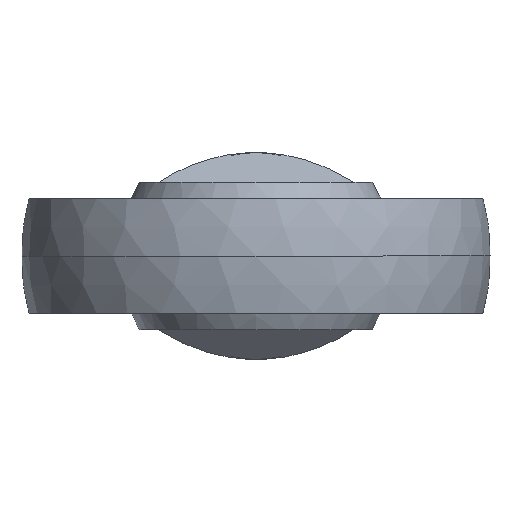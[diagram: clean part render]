
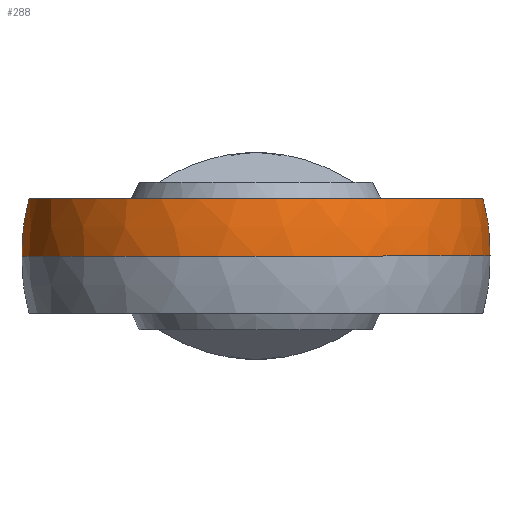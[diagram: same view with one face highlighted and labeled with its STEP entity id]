
A CAD part, left-side view. The second image highlights one B-rep face of the part: STEP entity #288.
In plain terms, the highlighted spherical face has radius 51 mm.
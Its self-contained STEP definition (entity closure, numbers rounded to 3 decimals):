
#3 = CARTESIAN_POINT ( 'NONE',  ( 0., 0., 0. ) ) ;
#46 = DIRECTION ( 'NONE',  ( 0., 0., -1. ) ) ;
#47 = DIRECTION ( 'NONE',  ( -1., 0., 0. ) ) ;
#288 = ADVANCED_FACE ( 'NONE', ( #797 ), #796, .T. ) ;
#289 = EDGE_LOOP ( 'NONE', ( #290, #318, #321, #315, #312 ) ) ;
#290 = ORIENTED_EDGE ( 'NONE', *, *, #291, .F. ) ;
#291 = EDGE_CURVE ( 'NONE', #292, #293, #546, .T. ) ;
#292 = VERTEX_POINT ( 'NONE', #851 ) ;
#293 = VERTEX_POINT ( 'NONE', #850 ) ;
#311 = EDGE_CURVE ( 'NONE', #293, #313, #877, .T. ) ;
#312 = ORIENTED_EDGE ( 'NONE', *, *, #311, .F. ) ;
#313 = VERTEX_POINT ( 'NONE', #872 ) ;
#314 = EDGE_CURVE ( 'NONE', #313, #320, #870, .T. ) ;
#315 = ORIENTED_EDGE ( 'NONE', *, *, #314, .F. ) ;
#316 = EDGE_CURVE ( 'NONE', #292, #319, #865, .T. ) ;
#317 = EDGE_CURVE ( 'NONE', #320, #319, #861, .T. ) ;
#318 = ORIENTED_EDGE ( 'NONE', *, *, #316, .T. ) ;
#319 = VERTEX_POINT ( 'NONE', #856 ) ;
#320 = VERTEX_POINT ( 'NONE', #855 ) ;
#321 = ORIENTED_EDGE ( 'NONE', *, *, #317, .F. ) ;
#546 = CIRCLE ( 'NONE', #794, 51. ) ;
#791 = DIRECTION ( 'NONE',  ( 0., 1., 0. ) ) ;
#792 = DIRECTION ( 'NONE',  ( 0., 0., 1. ) ) ;
#793 = AXIS2_PLACEMENT_3D ( 'NONE', #795, #792, #791 ) ;
#794 = AXIS2_PLACEMENT_3D ( 'NONE', #3, #46, #47 ) ;
#795 = CARTESIAN_POINT ( 'NONE',  ( 0., 0., 0. ) ) ;
#796 = SPHERICAL_SURFACE ( 'NONE', #793, 51. ) ;
#797 = FACE_OUTER_BOUND ( 'NONE', #289, .T. ) ;
#850 = CARTESIAN_POINT ( 'NONE',  ( 27.168, 43.161, 0. ) ) ;
#851 = CARTESIAN_POINT ( 'NONE',  ( -51., 0., 0. ) ) ;
#855 = CARTESIAN_POINT ( 'NONE',  ( 27.168, -41.312, 12.5 ) ) ;
#856 = CARTESIAN_POINT ( 'NONE',  ( 27.168, -43.161, 0. ) ) ;
#857 = DIRECTION ( 'NONE',  ( 0., 1., 0. ) ) ;
#858 = DIRECTION ( 'NONE',  ( 1., 0., 0. ) ) ;
#859 = CARTESIAN_POINT ( 'NONE',  ( 27.168, 0., 0. ) ) ;
#860 = AXIS2_PLACEMENT_3D ( 'NONE', #859, #858, #857 ) ;
#861 = CIRCLE ( 'NONE', #860, 43.161 ) ;
#862 = DIRECTION ( 'NONE',  ( 0., -1., 0. ) ) ;
#863 = DIRECTION ( 'NONE',  ( 0., 0., 1. ) ) ;
#864 = AXIS2_PLACEMENT_3D ( 'NONE', #871, #863, #862 ) ;
#865 = CIRCLE ( 'NONE', #864, 51. ) ;
#866 = DIRECTION ( 'NONE',  ( -1., 0., 0. ) ) ;
#867 = DIRECTION ( 'NONE',  ( 0., 0., 1. ) ) ;
#868 = CARTESIAN_POINT ( 'NONE',  ( 0., 0., 12.5 ) ) ;
#869 = AXIS2_PLACEMENT_3D ( 'NONE', #868, #867, #866 ) ;
#870 = CIRCLE ( 'NONE', #869, 49.444 ) ;
#871 = CARTESIAN_POINT ( 'NONE',  ( 0., 0., 0. ) ) ;
#872 = CARTESIAN_POINT ( 'NONE',  ( 27.168, 41.312, 12.5 ) ) ;
#873 = DIRECTION ( 'NONE',  ( 0., 1., 0. ) ) ;
#874 = DIRECTION ( 'NONE',  ( 1., 0., 0. ) ) ;
#875 = CARTESIAN_POINT ( 'NONE',  ( 27.168, 0., 0. ) ) ;
#876 = AXIS2_PLACEMENT_3D ( 'NONE', #875, #874, #873 ) ;
#877 = CIRCLE ( 'NONE', #876, 43.161 ) ;
